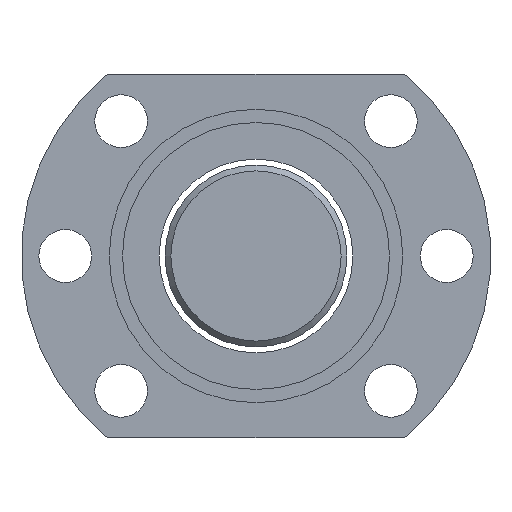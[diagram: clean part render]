
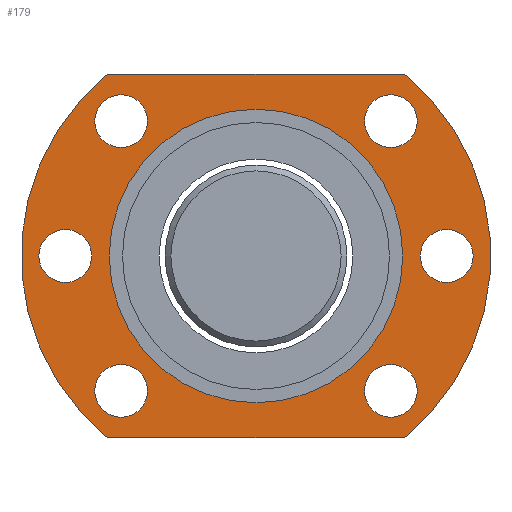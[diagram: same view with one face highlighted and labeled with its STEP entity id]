
A CAD part, left-side view. The second image highlights one B-rep face of the part: STEP entity #179.
In plain terms, the highlighted planar face has unit normal (-1, 0, 0).
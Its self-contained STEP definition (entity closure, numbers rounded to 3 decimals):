
#105=LINE('',#1156,#113);
#106=LINE('',#1160,#114);
#113=VECTOR('',#962,1.);
#114=VECTOR('',#965,1.);
#179=ADVANCED_FACE('',(#283,#284,#285,#286,#287,#288,#289,#290),#216,.T.);
#216=PLANE('',#798);
#283=FACE_BOUND('',#383,.T.);
#284=FACE_BOUND('',#384,.T.);
#285=FACE_BOUND('',#385,.T.);
#286=FACE_BOUND('',#386,.T.);
#287=FACE_BOUND('',#387,.T.);
#288=FACE_BOUND('',#388,.T.);
#289=FACE_BOUND('',#389,.T.);
#290=FACE_BOUND('',#390,.T.);
#383=EDGE_LOOP('',(#492));
#384=EDGE_LOOP('',(#493));
#385=EDGE_LOOP('',(#494,#495,#496,#497));
#386=EDGE_LOOP('',(#498));
#387=EDGE_LOOP('',(#499));
#388=EDGE_LOOP('',(#500));
#389=EDGE_LOOP('',(#501));
#390=EDGE_LOOP('',(#502));
#492=ORIENTED_EDGE('',*,*,#649,.T.);
#493=ORIENTED_EDGE('',*,*,#638,.F.);
#494=ORIENTED_EDGE('',*,*,#650,.T.);
#495=ORIENTED_EDGE('',*,*,#651,.T.);
#496=ORIENTED_EDGE('',*,*,#652,.T.);
#497=ORIENTED_EDGE('',*,*,#653,.T.);
#498=ORIENTED_EDGE('',*,*,#654,.F.);
#499=ORIENTED_EDGE('',*,*,#655,.F.);
#500=ORIENTED_EDGE('',*,*,#656,.F.);
#501=ORIENTED_EDGE('',*,*,#657,.T.);
#502=ORIENTED_EDGE('',*,*,#658,.T.);
#580=VERTEX_POINT('',#1128);
#591=VERTEX_POINT('',#1152);
#592=VERTEX_POINT('',#1154);
#593=VERTEX_POINT('',#1155);
#594=VERTEX_POINT('',#1157);
#595=VERTEX_POINT('',#1159);
#596=VERTEX_POINT('',#1162);
#597=VERTEX_POINT('',#1164);
#598=VERTEX_POINT('',#1166);
#599=VERTEX_POINT('',#1168);
#600=VERTEX_POINT('',#1170);
#638=EDGE_CURVE('',#580,#580,#700,.T.);
#649=EDGE_CURVE('',#591,#591,#709,.T.);
#650=EDGE_CURVE('',#592,#593,#710,.T.);
#651=EDGE_CURVE('',#593,#594,#105,.T.);
#652=EDGE_CURVE('',#594,#595,#711,.T.);
#653=EDGE_CURVE('',#595,#592,#106,.T.);
#654=EDGE_CURVE('',#596,#596,#712,.T.);
#655=EDGE_CURVE('',#597,#597,#713,.T.);
#656=EDGE_CURVE('',#598,#598,#714,.T.);
#657=EDGE_CURVE('',#599,#599,#715,.T.);
#658=EDGE_CURVE('',#600,#600,#716,.T.);
#700=CIRCLE('',#779,25.);
#709=CIRCLE('',#790,4.5);
#710=CIRCLE('',#791,40.);
#711=CIRCLE('',#792,40.);
#712=CIRCLE('',#793,4.5);
#713=CIRCLE('',#794,4.5);
#714=CIRCLE('',#795,4.5);
#715=CIRCLE('',#796,4.5);
#716=CIRCLE('',#797,4.5);
#779=AXIS2_PLACEMENT_3D('',#1127,#934,#935);
#790=AXIS2_PLACEMENT_3D('',#1151,#958,#959);
#791=AXIS2_PLACEMENT_3D('',#1153,#960,#961);
#792=AXIS2_PLACEMENT_3D('',#1158,#963,#964);
#793=AXIS2_PLACEMENT_3D('',#1161,#966,#967);
#794=AXIS2_PLACEMENT_3D('',#1163,#968,#969);
#795=AXIS2_PLACEMENT_3D('',#1165,#970,#971);
#796=AXIS2_PLACEMENT_3D('',#1167,#972,#973);
#797=AXIS2_PLACEMENT_3D('',#1169,#974,#975);
#798=AXIS2_PLACEMENT_3D('',#1171,#976,#977);
#934=DIRECTION('',(-1.,0.,0.));
#935=DIRECTION('',(0.,0.,-1.));
#958=DIRECTION('',(1.,0.,0.));
#959=DIRECTION('',(0.,0.,1.));
#960=DIRECTION('',(-1.,0.,0.));
#961=DIRECTION('',(0.,0.,-1.));
#962=DIRECTION('',(0.,-1.,0.));
#963=DIRECTION('',(-1.,0.,0.));
#964=DIRECTION('',(0.,0.,-1.));
#965=DIRECTION('',(0.,1.,0.));
#966=DIRECTION('',(-1.,0.,0.));
#967=DIRECTION('',(0.,0.,1.));
#968=DIRECTION('',(-1.,0.,0.));
#969=DIRECTION('',(0.,0.,1.));
#970=DIRECTION('',(-1.,0.,0.));
#971=DIRECTION('',(0.,0.,1.));
#972=DIRECTION('',(1.,0.,0.));
#973=DIRECTION('',(0.,0.,1.));
#974=DIRECTION('',(1.,0.,0.));
#975=DIRECTION('',(0.,0.,1.));
#976=DIRECTION('',(-1.,0.,0.));
#977=DIRECTION('',(0.,0.,1.));
#1127=CARTESIAN_POINT('',(-57.175,-48.743,-3.875));
#1128=CARTESIAN_POINT('',(-57.175,-48.743,-28.875));
#1151=CARTESIAN_POINT('',(-57.175,-81.243,-3.875));
#1152=CARTESIAN_POINT('',(-57.175,-81.243,0.625));
#1153=CARTESIAN_POINT('',(-57.175,-48.743,-3.875));
#1154=CARTESIAN_POINT('',(-57.175,-23.464,27.125));
#1155=CARTESIAN_POINT('',(-57.175,-23.464,-34.875));
#1156=CARTESIAN_POINT('',(-57.175,-23.464,-34.875));
#1157=CARTESIAN_POINT('',(-57.175,-74.021,-34.875));
#1158=CARTESIAN_POINT('',(-57.175,-48.743,-3.875));
#1159=CARTESIAN_POINT('',(-57.175,-74.021,27.125));
#1160=CARTESIAN_POINT('',(-57.175,-74.021,27.125));
#1161=CARTESIAN_POINT('',(-57.175,-16.243,-3.875));
#1162=CARTESIAN_POINT('',(-57.175,-16.243,0.625));
#1163=CARTESIAN_POINT('',(-57.175,-25.762,19.106));
#1164=CARTESIAN_POINT('',(-57.175,-25.762,23.606));
#1165=CARTESIAN_POINT('',(-57.175,-25.762,-26.856));
#1166=CARTESIAN_POINT('',(-57.175,-25.762,-22.356));
#1167=CARTESIAN_POINT('',(-57.175,-71.724,-26.856));
#1168=CARTESIAN_POINT('',(-57.175,-71.724,-22.356));
#1169=CARTESIAN_POINT('',(-57.175,-71.724,19.106));
#1170=CARTESIAN_POINT('',(-57.175,-71.724,23.606));
#1171=CARTESIAN_POINT('',(-57.175,-48.743,-3.875));
